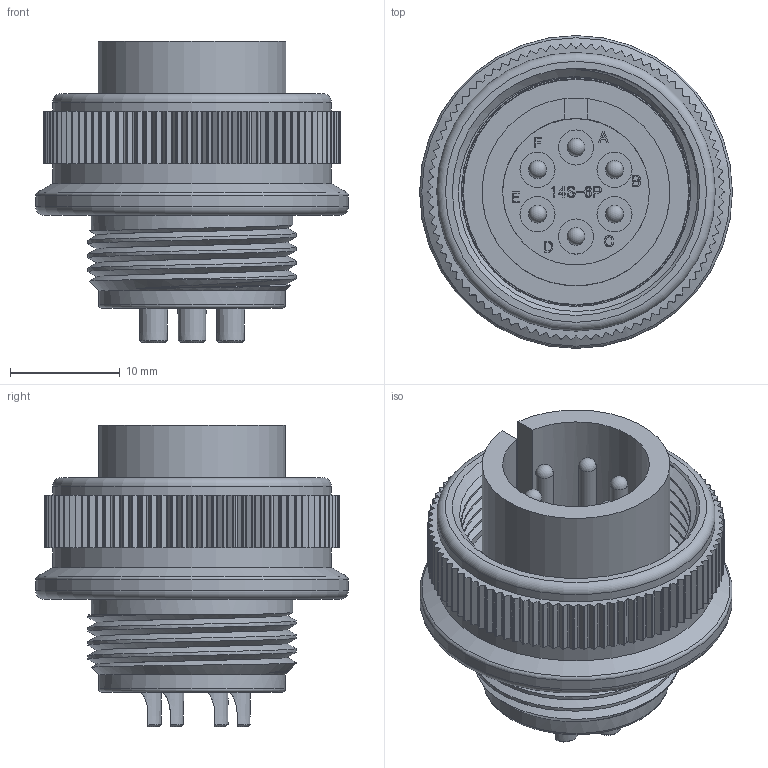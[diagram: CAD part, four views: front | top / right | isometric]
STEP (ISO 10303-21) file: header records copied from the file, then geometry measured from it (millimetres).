
FILE_DESCRIPTION (( 'STEP AP203' ), '1' );
FILE_NAME ('DMS3106A14S-6P(D190).STEP', '2021-02-05T09:47:58', ( '' ), ( '' ), 'SwSTEP 2.0', 'SolidWorks 2018', '' );
FILE_SCHEMA (( 'CONFIG_CONTROL_DESIGN' ));
Length unit declared in the file: millimetre
Products named in the file (1): DMS3106A14S-6P(D190)
Bounding box: 28.52 x 28.52 x 27.5 mm (x, y, z)
Volume: 5860.6 mm3; surface area: 6671.8 mm2
Topology: 1 solids, 1 shells, 1016 faces, 2865 edges, 1902 vertices
Faces by surface type: cylinder 433, plane 407, bspline 145, cone 21, sphere 6, torus 4
Full cylindrical faces by diameter (mm): 1.61 x6, 1.78 x6, 2.59 x6, 3.16 x6, 3.2 x6, 3.6 x6, 13.37 x1, 14.85 x1, 17 x1, 18.39 x1, 19.18 x1, 20.54 x1, 20.68 x1, 21.4 x1, 25.4 x2, 28.52 x1
Entity records: 38267 total; most frequent: CARTESIAN_POINT 12769, ORIENTED_EDGE 5480, DIRECTION 5019, EDGE_CURVE 2740, VERTEX_POINT 1855, AXIS2_PLACEMENT_3D 1743, VECTOR 1533, LINE 1533
